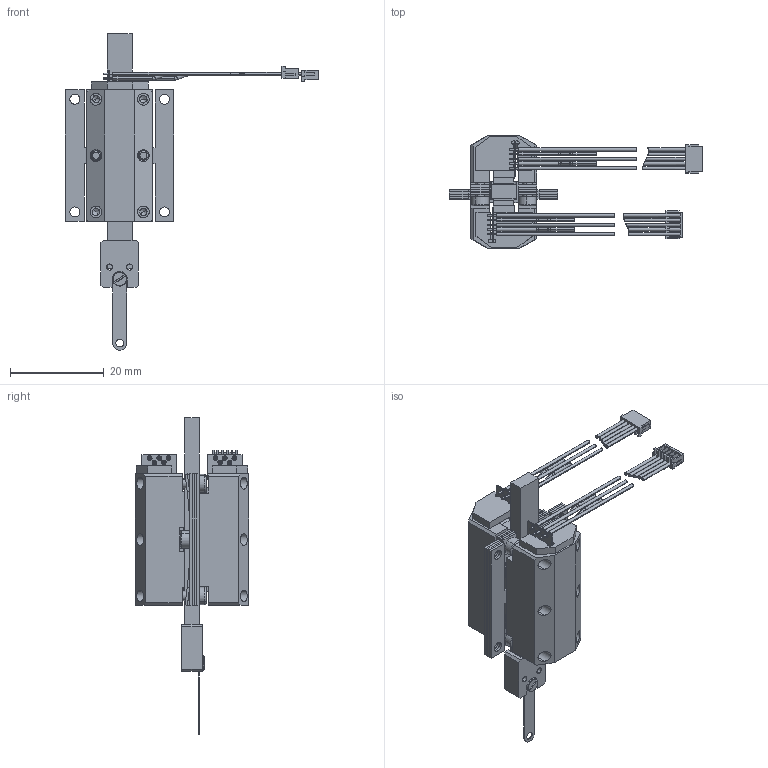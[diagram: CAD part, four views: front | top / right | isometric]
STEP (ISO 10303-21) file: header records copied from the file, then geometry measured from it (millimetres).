
FILE_DESCRIPTION (( 'STEP AP214' ), '1' );
FILE_NAME ('LT4050D-050D1B10-PiezoMotor.STEP', '2017-09-08T13:57:48', ( '' ), ( '' ), 'SwSTEP 2.0', 'SolidWorks 2017', '' );
FILE_SCHEMA (( 'AUTOMOTIVE_DESIGN' ));
Length unit declared in the file: millimetre
Products named in the file (3): LT4050D-xxxxxB10-PiezoMotor; LT4050D-050D1B10-PiezoMotor; LT4050D_DriveRod_050D1D2-PiezoMotor
Assembly tree (2 placements, depth 2):
  LT4050D-050D1B10-PiezoMotor
    LT4050D-xxxxxB10-PiezoMotor
    LT4050D_DriveRod_050D1D2-PiezoMotor
Bounding box: 53.9 x 24.18 x 67.35 mm (x, y, z)
Volume: 8383 mm3; surface area: 13728.3 mm2
Topology: 54 solids, 54 shells, 1254 faces, 3130 edges, 1995 vertices
Faces by surface type: plane 837, cylinder 324, cone 43, torus 40, bspline 10
Entity records: 39491 total; most frequent: CARTESIAN_POINT 6706, DIRECTION 6315, ORIENTED_EDGE 6236, EDGE_CURVE 3118, LINE 2323, VECTOR 2323, AXIS2_PLACEMENT_3D 1996, VERTEX_POINT 1995
